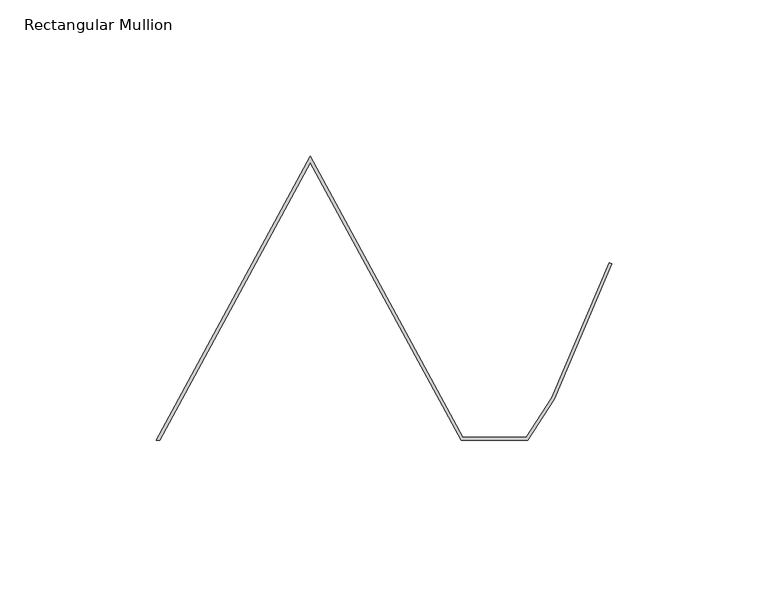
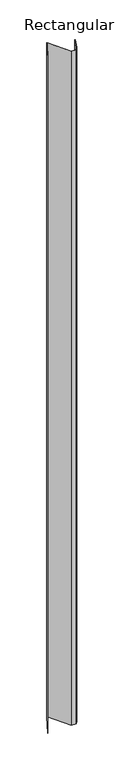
"""IFC4 building model written with IfcOpenShell, lengths in millimetres: member geometry, Rectangular Mullion : CD_NINELINE_Pleat Start."""

from ifc_helpers import new_model, si_unit, frame, origin, place, context, project, spatial, polyline, outline, extrude, source, transform, mapped, element, save


def rectangular_mullion_a3110674(model_context):
    return source(origin(), model_context, "Body", "SweptSolid", [
        extrude(outline(polyline([(-47.7222764, 1.0), (-27.4543023, 1.0), (-19.2850663, 13.5795203), (-0.9204563, 56.8438302), (0.0, 56.4531277), (-18.3986164, 13.1078083), (-26.9107882, 0.0), (-48.3196718, 0.0), (-96.5882329, 88.9012056), (-144.856794, 0.0), (-145.997258, 0.0), (-96.5882894, 91.0), (-47.7222764, 1.0)])), frame((0.0, 0.0, -2947.0), z_axis=(0.0, 0.0, 1.0), x_axis=(1.0, 0.0, 0.0)), (0.0, 0.0, 1.0), 2947.0),
    ])


if __name__ == "__main__":
    model = new_model("IFC4")
    model_context = context("Model", 3, world=origin())
    ifc_project = project(units=[si_unit("LENGTHUNIT", "METRE", prefix="MILLI")], contexts=[model_context])
    site = spatial("IfcSite", under=ifc_project)
    building = spatial("IfcBuilding", under=site)
    placement = place(None, origin())
    rectangular_mullion_shape = rectangular_mullion_a3110674(model_context)
    element("IfcMember", 1, ObjectType="Rectangular Mullion : CD_NINELINE_Pleat Start", at=placement, inside=building, context=model_context, shape_type="MappedRepresentation", body=[
        mapped(rectangular_mullion_shape, transform((0.0, 0.0, 0.0), x_axis=(1.0, 0.0, 0.0), y_axis=(0.0, 1.0, 0.0), z_axis=(0.0, 0.0, 1.0))),
    ])
    save(model, "model.ifc")
